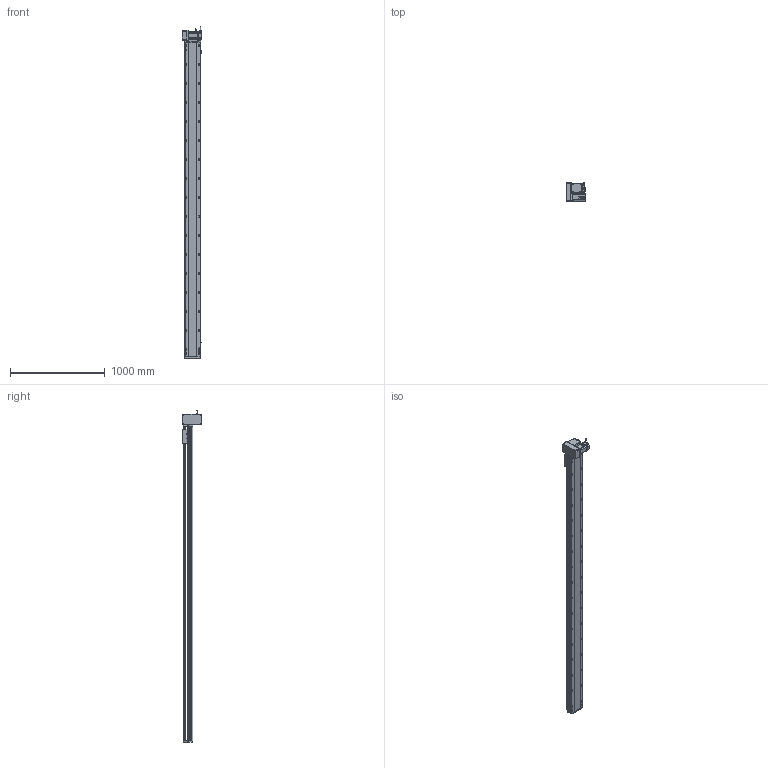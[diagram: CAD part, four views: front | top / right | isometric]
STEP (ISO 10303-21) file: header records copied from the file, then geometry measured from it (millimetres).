
FILE_DESCRIPTION (( 'STEP AP214' ), '1' );
FILE_NAME ('RTB17S-XX-3050-LM-M75-C4.STEP', '2025-12-12T00:50:02', ( '' ), ( '' ), 'SwSTEP 2.0', 'SolidWorks 2018', '' );
FILE_SCHEMA (( 'AUTOMOTIVE_DESIGN' ));
Length unit declared in the file: millimetre
Products named in the file (15): RTB22S-GY-018P^RTB17S-LM-々湍釱蚾饜-750W_RTB17S-XX-XX-LM-M75-C4; RTH13-BL-012覜茼え俋离^RTB17S-賑釱_RTB17S-XX-XX-LM-M75-C4; RTB17S-L-004-賑釱^RTB17S-賑釱_RTB17S-XX-XX-LM-M75-C4; RTB22S-GY-008-M75--萇儂啣^RTB17S-LM-々湍釱蚾饜-750W_RTB17S-XX-XX-LM-M75-C4; EE672^RTB17S-XX-XX-LM-M75-C4; RTB17S-XX-3050-LM-M75-C4; RTB22S-GY-005P^RTB17S-LM-々湍釱蚾饜-750W_RTB17S-XX-XX-LM-M75-C4; RTB17S-賑釱^RTB17S-XX-XX-LM-M75-C4; RTB17S-LM-々湍釱蚾饜-750W^RTB17S-XX-XX-LM-M75-C4; RTB17S-L-001-耜醱啣^RTB17S-XX-XX-LM-M75-C4; RTB17-R-011菁釱^RTB17S-XX-XX-LM-M75-C4; 750W萇儂^RTB17S-XX-XX-LM-M75-C4; RTB22S-GY-017P^RTB17S-LM-々湍釱蚾饜-750W_RTB17S-XX-XX-LM-M75-C4; RTB17S-L-014-T20-P75--々湍釱^RTB17S-LM-々湍釱蚾饜-750W_RTB17S-XX-XX-LM-M75-C4; RTB17S-L-007奻裔^RTB17S-XX-XX-LM-M75-C4
Assembly tree (17 placements, depth 3):
  RTB17S-XX-3050-LM-M75-C4
    RTB17-R-011菁釱^RTB17S-XX-XX-LM-M75-C4
    EE672^RTB17S-XX-XX-LM-M75-C4  x3
    RTB17S-L-001-耜醱啣^RTB17S-XX-XX-LM-M75-C4
    RTB17S-賑釱^RTB17S-XX-XX-LM-M75-C4
      RTB17S-L-004-賑釱^RTB17S-賑釱_RTB17S-XX-XX-LM-M75-C4
      RTH13-BL-012覜茼え俋离^RTB17S-賑釱_RTB17S-XX-XX-LM-M75-C4
    RTB17S-L-007奻裔^RTB17S-XX-XX-LM-M75-C4
    750W萇儂^RTB17S-XX-XX-LM-M75-C4
    RTB17S-LM-々湍釱蚾饜-750W^RTB17S-XX-XX-LM-M75-C4
      RTB17S-L-014-T20-P75--々湍釱^RTB17S-LM-々湍釱蚾饜-750W_RTB17S-XX-XX-LM-M75-C4
      RTB22S-GY-005P^RTB17S-LM-々湍釱蚾饜-750W_RTB17S-XX-XX-LM-M75-C4
      RTB22S-GY-017P^RTB17S-LM-々湍釱蚾饜-750W_RTB17S-XX-XX-LM-M75-C4  x2
      RTB22S-GY-008-M75--萇儂啣^RTB17S-LM-々湍釱蚾饜-750W_RTB17S-XX-XX-LM-M75-C4
      RTB22S-GY-018P^RTB17S-LM-々湍釱蚾饜-750W_RTB17S-XX-XX-LM-M75-C4
Bounding box: 210.4 x 200 x 3502.2 mm (x, y, z)
Volume: 25010772.5 mm3; surface area: 4590792.6 mm2
Topology: 17 solids, 17 shells, 2265 faces, 6376 edges, 4130 vertices
Faces by surface type: plane 992, cylinder 857, bspline 294, cone 110, sphere 8, torus 4
Entity records: 66550 total; most frequent: CARTESIAN_POINT 19840, ORIENTED_EDGE 9596, DIRECTION 8852, EDGE_CURVE 4798, AXIS2_PLACEMENT_3D 3150, VERTEX_POINT 3134, LINE 2552, VECTOR 2552
